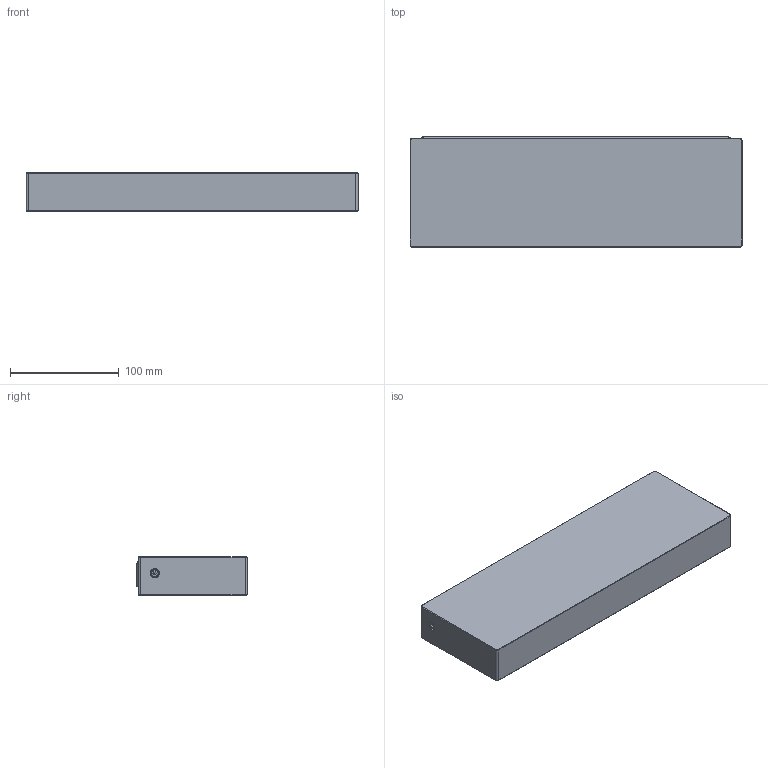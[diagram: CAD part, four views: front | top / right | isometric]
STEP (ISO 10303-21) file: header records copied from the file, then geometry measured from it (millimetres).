
FILE_DESCRIPTION(/* description */ ('STEP AP242'),/* implementation_level */ '2;1');
FILE_NAME(/* name */ '\\Mac\Home\Desktop\LV-WALLBRICK x12 1.stp',/* time_stamp */ '2025-12-26T17:03:18+07:00',/* author */ ('serj_k'),/* organization */ ('UNSPECIFIED'),/* preprocessor_version */ 'ST-DEVELOPER v16.13',/* originating_system */ 'Autodesk Inventor 2018',/* authorisation */ '');
FILE_SCHEMA (('AUTOMOTIVE_DESIGN { 1 0 10303 214 3 1 1 }'));
Length unit declared in the file: millimetre
Products named in the file (11): LV-WALLBRICK x12 1; Корпус; Кронштейн; Кронштейн сварной; Кронштейн_1; Заклёпка резьб.
, умен. борт M4; Заклёпка резьб.
, умен. борт M4_1; Стекло; Винт с цилиндр.
_гл шестигр. М4х1
6; Винт с цилиндр.
_гл шестигр. М4х1
6_1; LV-WALLBRICK x12
Assembly tree (10 placements, depth 4):
  LV-WALLBRICK x12 1
    Корпус
    Кронштейн
      Кронштейн сварной
        Кронштейн_1
      Заклёпка резьб.
, умен. борт M4
      Заклёпка резьб.
, умен. борт M4_1
    Стекло
    Винт с цилиндр.
_гл шестигр. М4х1
6
    Винт с цилиндр.
_гл шестигр. М4х1
6_1
    LV-WALLBRICK x12
Bounding box: 305 x 101.5 x 35 mm (x, y, z)
Volume: 1026227.2 mm3; surface area: 183341 mm2
Topology: 7 solids, 7 shells, 256 faces, 596 edges, 372 vertices
Faces by surface type: plane 116, cylinder 84, torus 28, cone 20, bspline 8
Full cylindrical faces by diameter (mm): 3.242 x2, 4 x2, 4.5 x2, 5 x4, 6 x6, 7 x2, 8.5 x2
Entity records: 11169 total; most frequent: CARTESIAN_POINT 5047, DIRECTION 1240, ORIENTED_EDGE 1088, EDGE_CURVE 544, AXIS2_PLACEMENT_3D 473, VERTEX_POINT 364, EDGE_LOOP 340, LINE 294
